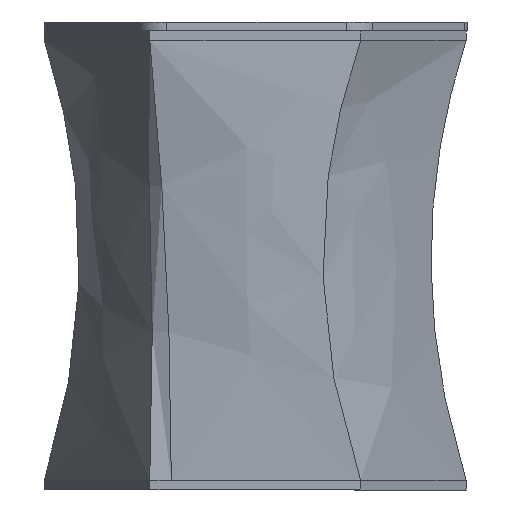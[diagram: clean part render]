
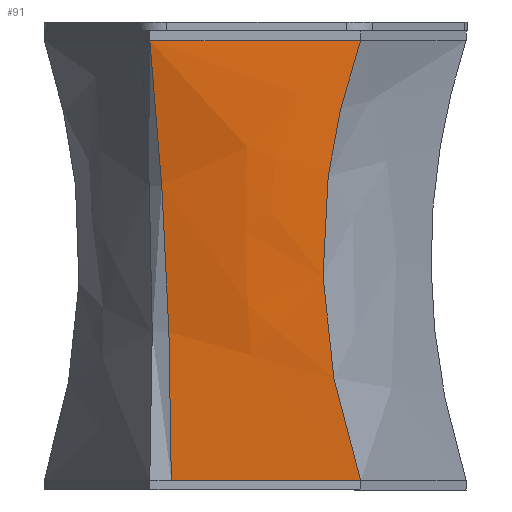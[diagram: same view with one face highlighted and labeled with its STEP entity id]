
A CAD part, left-side view. The second image highlights one B-rep face of the part: STEP entity #91.
In plain terms, the highlighted free-form (B-spline) face has degree [2, 3] with [7, 4] control points.
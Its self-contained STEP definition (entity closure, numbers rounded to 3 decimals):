
#91=ADVANCED_FACE('',(#203),#1710,.T.);
#203=FACE_OUTER_BOUND('',#312,.T.);
#312=EDGE_LOOP('',(#469,#470,#471,#472));
#469=ORIENTED_EDGE('',*,*,#1009,.T.);
#470=ORIENTED_EDGE('',*,*,#1007,.F.);
#471=ORIENTED_EDGE('',*,*,#1003,.F.);
#472=ORIENTED_EDGE('',*,*,#1010,.T.);
#1003=EDGE_CURVE('',#1552,#1557,#1287,.T.);
#1007=EDGE_CURVE('',#1557,#1559,#1291,.T.);
#1009=EDGE_CURVE('',#1560,#1559,#1293,.T.);
#1010=EDGE_CURVE('',#1552,#1560,#1294,.T.);
#1287=B_SPLINE_CURVE_WITH_KNOTS('',3,(#3525,#3526,#3527,#3528),
 .UNSPECIFIED.,.F.,.F.,(4,4),(0.,193.838),.UNSPECIFIED.);
#1291=B_SPLINE_CURVE_WITH_KNOTS('',2,(#3538,#3539,#3540),.UNSPECIFIED.,
 .F.,.F.,(3,3),(0.,454.733),.UNSPECIFIED.);
#1293=B_SPLINE_CURVE_WITH_KNOTS('',3,(#3545,#3546,#3547,#3548),
 .UNSPECIFIED.,.F.,.F.,(4,4),(0.,215.904),.UNSPECIFIED.);
#1294=B_SPLINE_CURVE_WITH_KNOTS('',2,(#3549,#3550,#3551),.UNSPECIFIED.,
 .F.,.F.,(3,3),(0.,476.294),.UNSPECIFIED.);
#1552=VERTEX_POINT('',#3388);
#1557=VERTEX_POINT('',#3393);
#1559=VERTEX_POINT('',#3395);
#1560=VERTEX_POINT('',#3396);
#1710=B_SPLINE_SURFACE_WITH_KNOTS('',2,3,((#2016,#2017,#2018,#2019),(#2020,
#2021,#2022,#2023),(#2024,#2025,#2026,#2027),(#2028,#2029,#2030,#2031),
(#2032,#2033,#2034,#2035),(#2036,#2037,#2038,#2039),(#2040,#2041,#2042,
#2043)),.UNSPECIFIED.,.F.,.F.,.F.,(3,2,2,3),(4,4),(0.,4.763,
481.057,485.82),(0.,217.9),
 .UNSPECIFIED.);
#2016=CARTESIAN_POINT('',(-483.847,94.422,463.704));
#2017=CARTESIAN_POINT('',(-483.172,21.893,463.704));
#2018=CARTESIAN_POINT('',(-482.919,-50.767,463.704));
#2019=CARTESIAN_POINT('',(-483.099,-123.475,463.704));
#2020=CARTESIAN_POINT('',(-483.561,94.201,461.49));
#2021=CARTESIAN_POINT('',(-483.223,21.953,461.49));
#2022=CARTESIAN_POINT('',(-483.096,-50.361,461.49));
#2023=CARTESIAN_POINT('',(-483.186,-122.699,461.49));
#2024=CARTESIAN_POINT('',(-483.274,93.98,459.275));
#2025=CARTESIAN_POINT('',(-483.274,22.012,459.275));
#2026=CARTESIAN_POINT('',(-483.274,-49.956,459.275));
#2027=CARTESIAN_POINT('',(-483.274,-121.924,459.275));
#2028=CARTESIAN_POINT('',(-454.579,71.914,237.804));
#2029=CARTESIAN_POINT('',(-488.355,27.992,237.804));
#2030=CARTESIAN_POINT('',(-501.008,-9.401,237.804));
#2031=CARTESIAN_POINT('',(-492.002,-44.39,237.804));
#2032=CARTESIAN_POINT('',(-483.274,71.914,9.275));
#2033=CARTESIAN_POINT('',(-483.274,7.302,9.275));
#2034=CARTESIAN_POINT('',(-483.274,-57.311,9.275));
#2035=CARTESIAN_POINT('',(-483.274,-121.924,9.275));
#2036=CARTESIAN_POINT('',(-483.561,71.914,6.99));
#2037=CARTESIAN_POINT('',(-483.223,7.095,6.99));
#2038=CARTESIAN_POINT('',(-483.096,-57.79,6.99));
#2039=CARTESIAN_POINT('',(-483.186,-122.699,6.99));
#2040=CARTESIAN_POINT('',(-483.847,71.914,4.704));
#2041=CARTESIAN_POINT('',(-483.172,6.888,4.704));
#2042=CARTESIAN_POINT('',(-482.919,-58.269,4.704));
#2043=CARTESIAN_POINT('',(-483.099,-123.475,4.704));
#3388=CARTESIAN_POINT('',(-483.274,-121.924,9.275));
#3393=CARTESIAN_POINT('',(-483.274,71.914,9.275));
#3395=CARTESIAN_POINT('',(-483.274,93.98,459.275));
#3396=CARTESIAN_POINT('',(-483.274,-121.924,459.275));
#3525=CARTESIAN_POINT('',(-483.274,-121.924,9.275));
#3526=CARTESIAN_POINT('',(-483.274,-57.311,9.275));
#3527=CARTESIAN_POINT('',(-483.274,7.302,9.275));
#3528=CARTESIAN_POINT('',(-483.274,71.914,9.275));
#3538=CARTESIAN_POINT('',(-483.274,71.914,9.275));
#3539=CARTESIAN_POINT('',(-454.579,71.914,237.804));
#3540=CARTESIAN_POINT('',(-483.274,93.98,459.275));
#3545=CARTESIAN_POINT('',(-483.274,-121.924,459.275));
#3546=CARTESIAN_POINT('',(-483.274,-49.956,459.275));
#3547=CARTESIAN_POINT('',(-483.274,22.012,459.275));
#3548=CARTESIAN_POINT('',(-483.274,93.98,459.275));
#3549=CARTESIAN_POINT('',(-483.274,-121.924,9.275));
#3550=CARTESIAN_POINT('',(-492.002,-44.39,237.804));
#3551=CARTESIAN_POINT('',(-483.274,-121.924,459.275));
